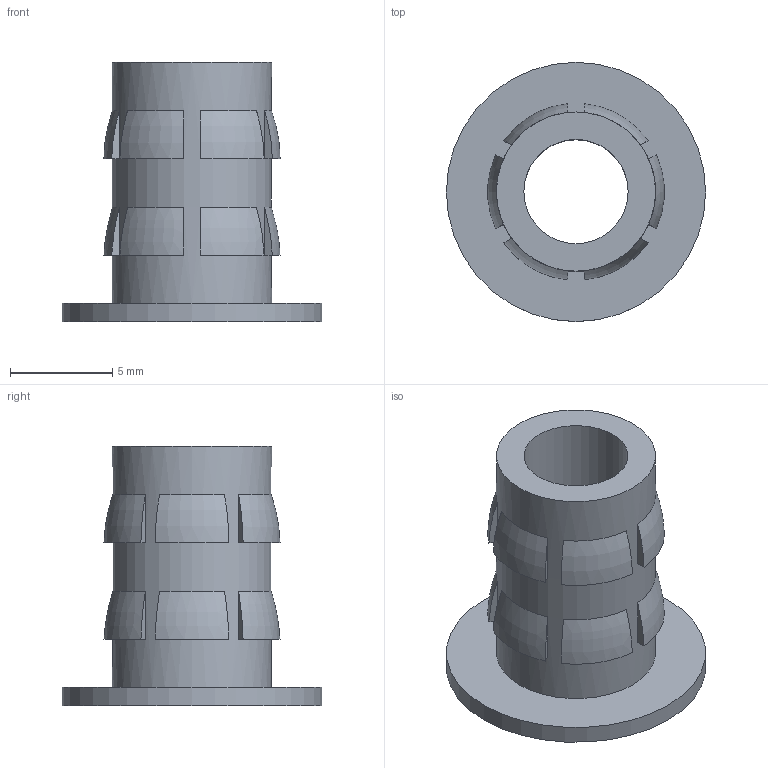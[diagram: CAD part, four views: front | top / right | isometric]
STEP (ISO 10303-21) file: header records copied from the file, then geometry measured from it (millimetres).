
FILE_DESCRIPTION (( 'STEP AP214' ), '1' );
FILE_NAME ('Flanged insert 1(4)-20.STEP', '2017-08-09T07:47:15', ( '微软用户' ), ( '微软中国' ), 'SwSTEP 2.0', 'SolidWorks 2015', '' );
FILE_SCHEMA (( 'AUTOMOTIVE_DESIGN' ));
Length unit declared in the file: millimetre
Products named in the file (1): Flanged insert 1(4)-20
Bounding box: 12.7 x 12.7 x 12.7 mm (x, y, z)
Volume: 428.6 mm3; surface area: 774.9 mm2
Topology: 1 solids, 1 shells, 55 faces, 125 edges, 83 vertices
Faces by surface type: plane 39, torus 12, cylinder 3, cone 1
Full cylindrical faces by diameter (mm): 5.105 x1, 7.798 x1, 12.7 x1
Entity records: 1586 total; most frequent: CARTESIAN_POINT 358, DIRECTION 246, ORIENTED_EDGE 230, EDGE_CURVE 115, AXIS2_PLACEMENT_3D 99, VERTEX_POINT 79, EDGE_LOOP 74, FACE_OUTER_BOUND 58
